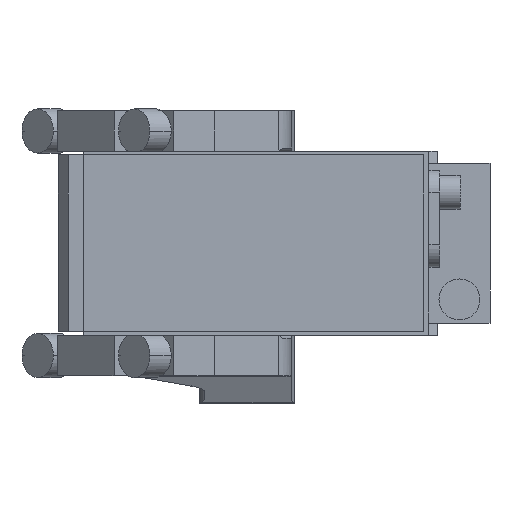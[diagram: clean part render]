
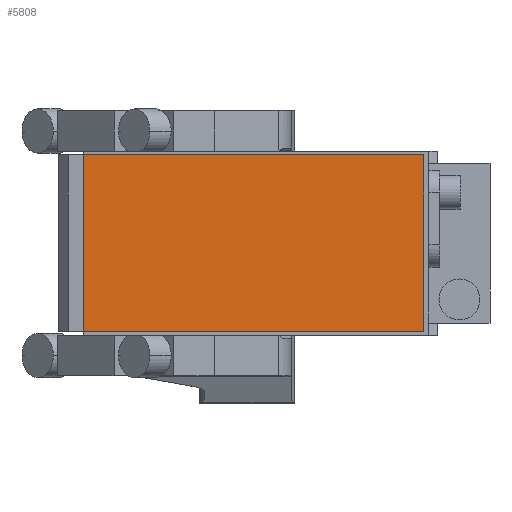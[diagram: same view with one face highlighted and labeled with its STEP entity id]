
A CAD part, front view. The second image highlights one B-rep face of the part: STEP entity #5808.
In plain terms, the highlighted planar face has unit normal (0, -1, 0).
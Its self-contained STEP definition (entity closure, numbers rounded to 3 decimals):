
#953 = CARTESIAN_POINT ( 'NONE',  ( -19., -286.5, -26. ) ) ;
#959 = VERTEX_POINT ( 'NONE', #953 ) ;
#1265 = DIRECTION ( 'NONE',  ( 0., 0., -1. ) ) ;
#2205 = PLANE ( 'NONE',  #9140 ) ;
#2633 = VERTEX_POINT ( 'NONE', #12862 ) ;
#3191 = DIRECTION ( 'NONE',  ( 0., 0., -1. ) ) ;
#3896 = ORIENTED_EDGE ( 'NONE', *, *, #7417, .T. ) ;
#4140 = EDGE_CURVE ( 'NONE', #2633, #959, #4589, .T. ) ;
#4191 = VECTOR ( 'NONE', #1265, 1000. ) ;
#4589 = LINE ( 'NONE', #8897, #4191 ) ;
#4783 = CARTESIAN_POINT ( 'NONE',  ( 81., -286.5, -26. ) ) ;
#4948 = CARTESIAN_POINT ( 'NONE',  ( -19., -286.5, 26. ) ) ;
#5670 = EDGE_LOOP ( 'NONE', ( #11217, #12248, #12855, #3896 ) ) ;
#5672 = EDGE_CURVE ( 'NONE', #12433, #12810, #9145, .T. ) ;
#5808 = ADVANCED_FACE ( 'NONE', ( #6241 ), #2205, .T. ) ;
#5981 = DIRECTION ( 'NONE',  ( 1., 0., 0. ) ) ;
#6076 = DIRECTION ( 'NONE',  ( -1., 0., 0. ) ) ;
#6241 = FACE_OUTER_BOUND ( 'NONE', #5670, .T. ) ;
#7109 = CARTESIAN_POINT ( 'NONE',  ( -19., -286.5, -26. ) ) ;
#7417 = EDGE_CURVE ( 'NONE', #12810, #2633, #10257, .T. ) ;
#7570 = CARTESIAN_POINT ( 'NONE',  ( 0., -286.5, 0. ) ) ;
#8085 = LINE ( 'NONE', #7109, #12303 ) ;
#8552 = DIRECTION ( 'NONE',  ( 0., -1., 0. ) ) ;
#8897 = CARTESIAN_POINT ( 'NONE',  ( -19., -286.5, 26. ) ) ;
#9140 = AXIS2_PLACEMENT_3D ( 'NONE', #7570, #8552, #3191 ) ;
#9145 = LINE ( 'NONE', #13654, #13770 ) ;
#9924 = VECTOR ( 'NONE', #6076, 1000. ) ;
#10257 = LINE ( 'NONE', #4948, #9924 ) ;
#10340 = DIRECTION ( 'NONE',  ( 0., 0., 1. ) ) ;
#11217 = ORIENTED_EDGE ( 'NONE', *, *, #4140, .T. ) ;
#12241 = CARTESIAN_POINT ( 'NONE',  ( 81., -286.5, 26. ) ) ;
#12248 = ORIENTED_EDGE ( 'NONE', *, *, #12934, .T. ) ;
#12303 = VECTOR ( 'NONE', #5981, 1000. ) ;
#12433 = VERTEX_POINT ( 'NONE', #4783 ) ;
#12810 = VERTEX_POINT ( 'NONE', #12241 ) ;
#12855 = ORIENTED_EDGE ( 'NONE', *, *, #5672, .T. ) ;
#12862 = CARTESIAN_POINT ( 'NONE',  ( -19., -286.5, 26. ) ) ;
#12934 = EDGE_CURVE ( 'NONE', #959, #12433, #8085, .T. ) ;
#13654 = CARTESIAN_POINT ( 'NONE',  ( 81., -286.5, 26. ) ) ;
#13770 = VECTOR ( 'NONE', #10340, 1000. ) ;
